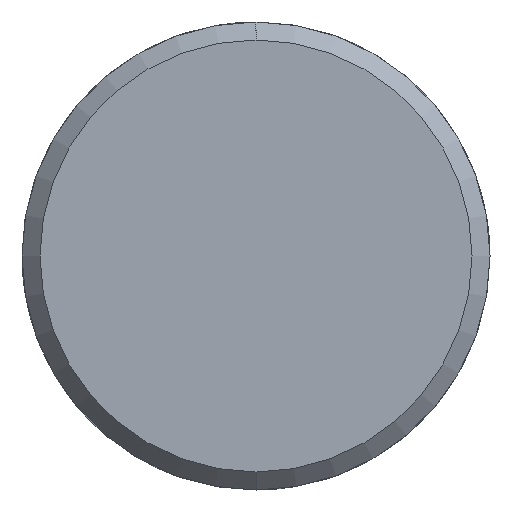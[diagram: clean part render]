
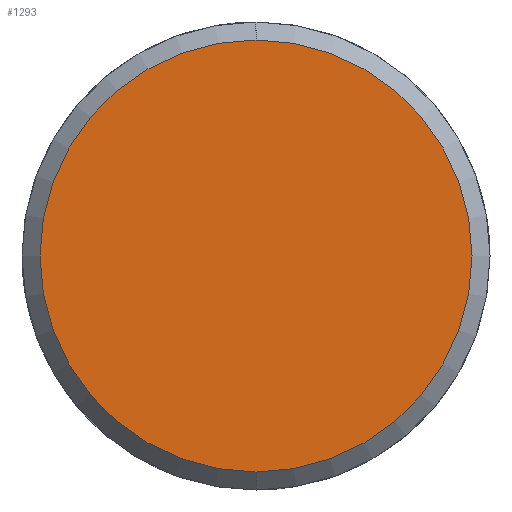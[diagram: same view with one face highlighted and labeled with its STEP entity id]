
A CAD part, left-side view. The second image highlights one B-rep face of the part: STEP entity #1293.
In plain terms, the highlighted planar face has unit normal (-1, 0, 0).
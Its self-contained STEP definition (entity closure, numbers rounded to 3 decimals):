
#1225=CARTESIAN_POINT('Vertex',(-5.,0.,-12.)) ;
#1228=CARTESIAN_POINT('Axis2P3D Location',(-5.,0.,0.)) ;
#1232=CARTESIAN_POINT('Vertex',(-5.,12.,0.)) ;
#1235=CARTESIAN_POINT('Axis2P3D Location',(-5.,0.,0.)) ;
#1239=CARTESIAN_POINT('Vertex',(-5.,0.,12.)) ;
#1261=CARTESIAN_POINT('Axis2P3D Location',(-5.,0.,0.)) ;
#1265=CARTESIAN_POINT('Vertex',(-5.,-12.,0.)) ;
#1268=CARTESIAN_POINT('Axis2P3D Location',(-5.,0.,0.)) ;
#1282=CARTESIAN_POINT('Axis2P3D Location',(-5.,0.,0.)) ;
#1229=DIRECTION('Axis2P3D Direction',(1.,0.,-0.)) ;
#1236=DIRECTION('Axis2P3D Direction',(1.,0.,-0.)) ;
#1262=DIRECTION('Axis2P3D Direction',(1.,0.,-0.)) ;
#1269=DIRECTION('Axis2P3D Direction',(1.,0.,-0.)) ;
#1283=DIRECTION('Axis2P3D Direction',(1.,0.,-0.)) ;
#1284=DIRECTION('Axis2P3D XDirection',(-0.,0.,-1.)) ;
#1230=AXIS2_PLACEMENT_3D('Circle Axis2P3D',#1228,#1229,$) ;
#1237=AXIS2_PLACEMENT_3D('Circle Axis2P3D',#1235,#1236,$) ;
#1263=AXIS2_PLACEMENT_3D('Circle Axis2P3D',#1261,#1262,$) ;
#1270=AXIS2_PLACEMENT_3D('Circle Axis2P3D',#1268,#1269,$) ;
#1285=AXIS2_PLACEMENT_3D('Plane Axis2P3D',#1282,#1283,#1284) ;
#1288=ORIENTED_EDGE('',*,*,#1234,.F.) ;
#1289=ORIENTED_EDGE('',*,*,#1272,.F.) ;
#1290=ORIENTED_EDGE('',*,*,#1267,.F.) ;
#1291=ORIENTED_EDGE('',*,*,#1241,.F.) ;
#1293=ADVANCED_FACE('351-16X76X200',(#1292),#1286,.F.) ;
#1231=CIRCLE('generated circle',#1230,12.) ;
#1238=CIRCLE('generated circle',#1237,12.) ;
#1264=CIRCLE('generated circle',#1263,12.) ;
#1271=CIRCLE('generated circle',#1270,12.) ;
#1234=EDGE_CURVE('',#1226,#1233,#1231,.T.) ;
#1241=EDGE_CURVE('',#1233,#1240,#1238,.T.) ;
#1267=EDGE_CURVE('',#1240,#1266,#1264,.T.) ;
#1272=EDGE_CURVE('',#1266,#1226,#1271,.T.) ;
#1287=EDGE_LOOP('',(#1288,#1289,#1290,#1291)) ;
#1292=FACE_OUTER_BOUND('',#1287,.T.) ;
#1286=PLANE('Plane',#1285) ;
#1226=VERTEX_POINT('',#1225) ;
#1233=VERTEX_POINT('',#1232) ;
#1240=VERTEX_POINT('',#1239) ;
#1266=VERTEX_POINT('',#1265) ;
